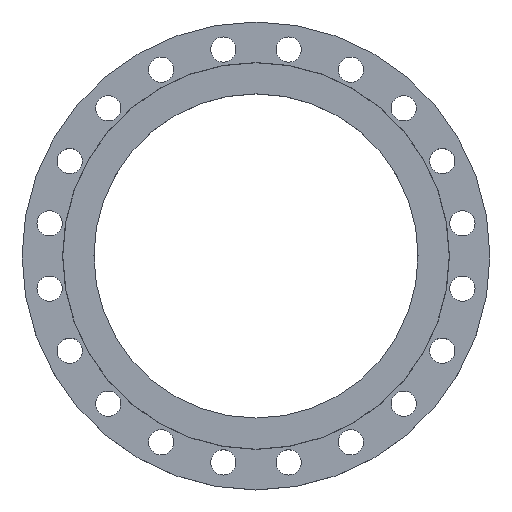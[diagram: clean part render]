
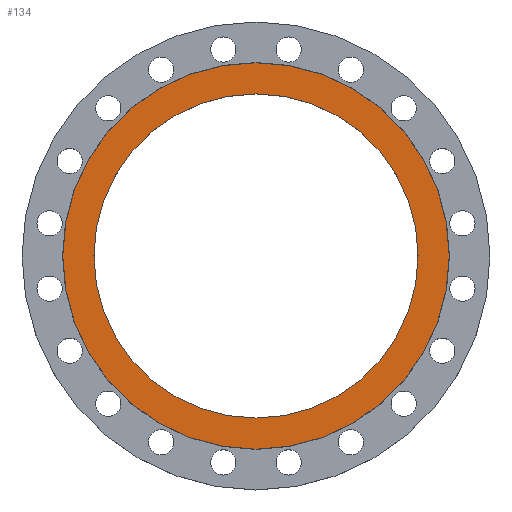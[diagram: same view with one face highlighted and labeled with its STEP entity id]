
A CAD part, top view. The second image highlights one B-rep face of the part: STEP entity #134.
In plain terms, the highlighted planar face has unit normal (0, 0, 1).
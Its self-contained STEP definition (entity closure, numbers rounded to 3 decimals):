
#98 = AXIS2_PLACEMENT_3D ( 'NONE', #1080, #1079, #1078 ) ;
#128 = DIRECTION ( 'NONE',  ( -1., 0., 0. ) ) ;
#129 = DIRECTION ( 'NONE',  ( 0., 0., -1. ) ) ;
#130 = CARTESIAN_POINT ( 'NONE',  ( 0., 0., 0. ) ) ;
#134 = ADVANCED_FACE ( 'NONE', ( #1084, #1083 ), #1081, .T. ) ;
#136 = DIRECTION ( 'NONE',  ( 1., 0., 0. ) ) ;
#137 = DIRECTION ( 'NONE',  ( 0., 0., 1. ) ) ;
#138 = CARTESIAN_POINT ( 'NONE',  ( 0., 0., 0. ) ) ;
#183 = DIRECTION ( 'NONE',  ( 1., 0., 0. ) ) ;
#184 = DIRECTION ( 'NONE',  ( 0., 0., 1. ) ) ;
#187 = CARTESIAN_POINT ( 'NONE',  ( 0., 0., 0. ) ) ;
#236 = CIRCLE ( 'NONE', #273, 367.5 ) ;
#250 = CARTESIAN_POINT ( 'NONE',  ( 308.25, 0., 0. ) ) ;
#273 = AXIS2_PLACEMENT_3D ( 'NONE', #130, #129, #128 ) ;
#301 = CIRCLE ( 'NONE', #1715, 308.25 ) ;
#304 = AXIS2_PLACEMENT_3D ( 'NONE', #138, #137, #136 ) ;
#305 = CIRCLE ( 'NONE', #304, 308.25 ) ;
#447 = CIRCLE ( 'NONE', #1092, 367.5 ) ;
#450 = CARTESIAN_POINT ( 'NONE',  ( -308.25, 0., 0. ) ) ;
#460 = CARTESIAN_POINT ( 'NONE',  ( -367.5, 0., 0. ) ) ;
#465 = CARTESIAN_POINT ( 'NONE',  ( 367.5, 0., 0. ) ) ;
#658 = EDGE_CURVE ( 'NONE', #1446, #1444, #447, .T. ) ;
#901 = DIRECTION ( 'NONE',  ( -1., 0., 0. ) ) ;
#903 = DIRECTION ( 'NONE',  ( 0., 0., -1. ) ) ;
#904 = CARTESIAN_POINT ( 'NONE',  ( 0., 0., 0. ) ) ;
#1078 = DIRECTION ( 'NONE',  ( 1., 0., 0. ) ) ;
#1079 = DIRECTION ( 'NONE',  ( 0., 0., 1. ) ) ;
#1080 = CARTESIAN_POINT ( 'NONE',  ( 0., 0., 0. ) ) ;
#1081 = PLANE ( 'NONE',  #98 ) ;
#1083 = FACE_OUTER_BOUND ( 'NONE', #1375, .T. ) ;
#1084 = FACE_BOUND ( 'NONE', #1458, .T. ) ;
#1092 = AXIS2_PLACEMENT_3D ( 'NONE', #904, #903, #901 ) ;
#1375 = EDGE_LOOP ( 'NONE', ( #1498, #1495 ) ) ;
#1444 = VERTEX_POINT ( 'NONE', #465 ) ;
#1446 = VERTEX_POINT ( 'NONE', #460 ) ;
#1457 = VERTEX_POINT ( 'NONE', #450 ) ;
#1458 = EDGE_LOOP ( 'NONE', ( #1490, #1784 ) ) ;
#1490 = ORIENTED_EDGE ( 'NONE', *, *, #1783, .F. ) ;
#1495 = ORIENTED_EDGE ( 'NONE', *, *, #1787, .F. ) ;
#1498 = ORIENTED_EDGE ( 'NONE', *, *, #658, .F. ) ;
#1715 = AXIS2_PLACEMENT_3D ( 'NONE', #187, #184, #183 ) ;
#1720 = VERTEX_POINT ( 'NONE', #250 ) ;
#1739 = EDGE_CURVE ( 'NONE', #1457, #1720, #301, .T. ) ;
#1783 = EDGE_CURVE ( 'NONE', #1720, #1457, #305, .T. ) ;
#1784 = ORIENTED_EDGE ( 'NONE', *, *, #1739, .F. ) ;
#1787 = EDGE_CURVE ( 'NONE', #1444, #1446, #236, .T. ) ;
